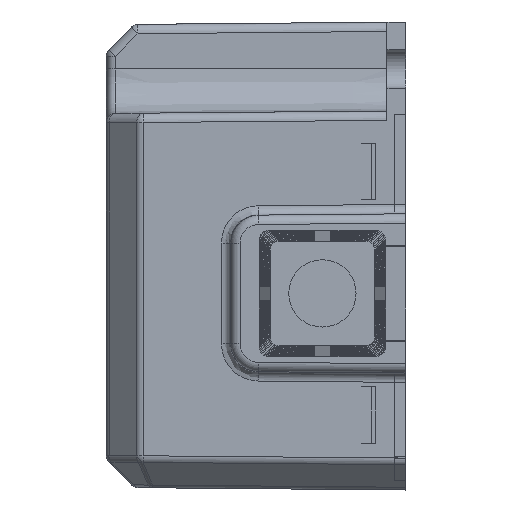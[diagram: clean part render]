
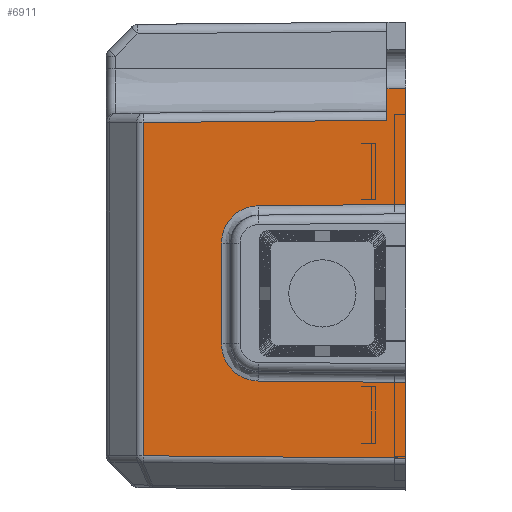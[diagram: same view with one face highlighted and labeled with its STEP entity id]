
A CAD part, left-side view. The second image highlights one B-rep face of the part: STEP entity #6911.
In plain terms, the highlighted planar face has unit normal (-1, 0.009, 0).
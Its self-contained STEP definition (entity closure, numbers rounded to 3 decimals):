
#380=CARTESIAN_POINT('',(-77.417,-2.,-21.603));
#385=DIRECTION('',(0.,0.,1.));
#386=VECTOR('',#385,8.093);
#387=CARTESIAN_POINT('',(-77.417,-2.,-21.603));
#388=LINE('',#387,#386);
#779=DIRECTION('',(-0.009,-1.,-0.009));
#780=VECTOR('',#779,15.727);
#781=CARTESIAN_POINT('',(-77.28,13.726,-13.373));
#782=LINE('',#781,#780);
#786=DIRECTION('',(0.009,1.,0.009));
#787=VECTOR('',#786,28.053);
#788=CARTESIAN_POINT('',(-77.417,-2.,-21.603));
#789=LINE('',#788,#787);
#793=DIRECTION('',(-0.009,-1.,0.009));
#794=VECTOR('',#793,26.053);
#795=CARTESIAN_POINT('',(-77.173,26.051,14.273));
#796=LINE('',#795,#794);
#800=DIRECTION('',(0.,0.,1.));
#801=VECTOR('',#800,3.4);
#802=CARTESIAN_POINT('',(-77.4,0.,14.5));
#803=LINE('',#802,#801);
#807=DIRECTION('',(0.009,1.,-0.009));
#808=VECTOR('',#807,15.727);
#809=CARTESIAN_POINT('',(-77.417,-2.,5.51));
#810=LINE('',#809,#808);
#814=CARTESIAN_POINT('',(-77.28,13.726,5.373));
#815=CARTESIAN_POINT('',(-77.277,14.082,5.37));
#816=CARTESIAN_POINT('',(-77.271,14.767,5.272));
#817=CARTESIAN_POINT('',(-77.263,15.737,4.864));
#818=CARTESIAN_POINT('',(-77.255,16.564,4.221));
#819=CARTESIAN_POINT('',(-77.25,17.199,3.389));
#820=CARTESIAN_POINT('',(-77.246,17.6,2.415));
#821=CARTESIAN_POINT('',(-77.246,17.691,1.73));
#822=CARTESIAN_POINT('',(-77.246,17.691,1.373));
#827=CARTESIAN_POINT('',(-77.246,17.691,-9.373));
#828=CARTESIAN_POINT('',(-77.246,17.691,-9.73));
#829=CARTESIAN_POINT('',(-77.246,17.6,-10.415));
#830=CARTESIAN_POINT('',(-77.25,17.199,-11.389));
#831=CARTESIAN_POINT('',(-77.255,16.564,-12.221));
#832=CARTESIAN_POINT('',(-77.263,15.738,-12.864));
#833=CARTESIAN_POINT('',(-77.271,14.767,-13.272));
#834=CARTESIAN_POINT('',(-77.277,14.082,-13.37));
#835=CARTESIAN_POINT('',(-77.28,13.726,-13.373));
#1240=DIRECTION('',(0.,0.,-1.));
#1241=VECTOR('',#1240,35.631);
#1242=CARTESIAN_POINT('',(-77.173,26.051,14.273));
#1243=LINE('',#1242,#1241);
#1630=CARTESIAN_POINT('',(-77.417,-2.,5.51));
#1635=DIRECTION('',(0.,0.,1.));
#1636=VECTOR('',#1635,12.39);
#1637=CARTESIAN_POINT('',(-77.417,-2.,5.51));
#1638=LINE('',#1637,#1636);
#5002=DIRECTION('',(0.,0.,1.));
#5003=VECTOR('',#5002,10.747);
#5004=CARTESIAN_POINT('',(-77.246,17.691,
-9.373));
#5005=LINE('',#5004,#5003);
#5009=DIRECTION('',(0.009,1.,0.));
#5010=VECTOR('',#5009,2.);
#5011=CARTESIAN_POINT('',(-77.417,-2.,17.9));
#5012=LINE('',#5011,#5010);
#5590=VERTEX_POINT('',#1630);
#5591=CARTESIAN_POINT('',(-77.417,-2.,17.9));
#5592=VERTEX_POINT('',#5591);
#5650=VERTEX_POINT('',#380);
#5651=CARTESIAN_POINT('',(-77.417,-2.,-13.51));
#5652=VERTEX_POINT('',#5651);
#6250=CARTESIAN_POINT('',(-77.28,13.726,
-13.373));
#6251=VERTEX_POINT('',#6250);
#6252=CARTESIAN_POINT('',(-77.173,26.051,
-21.359));
#6253=VERTEX_POINT('',#6252);
#6254=CARTESIAN_POINT('',(-77.173,26.051,14.273));
#6255=VERTEX_POINT('',#6254);
#6256=CARTESIAN_POINT('',(-77.4,0.,14.5));
#6257=VERTEX_POINT('',#6256);
#6258=CARTESIAN_POINT('',(-77.4,0.,17.9));
#6259=VERTEX_POINT('',#6258);
#6260=CARTESIAN_POINT('',(-77.28,13.726,5.373));
#6261=VERTEX_POINT('',#6260);
#6262=VERTEX_POINT('',#822);
#6263=CARTESIAN_POINT('',(-77.246,17.691,
-9.373));
#6264=VERTEX_POINT('',#6263);
#6882=CARTESIAN_POINT('',(-77.4,0.,-27.359));
#6883=DIRECTION('',(-1.,0.009,0.));
#6884=DIRECTION('',(0.,0.,-1.));
#6885=AXIS2_PLACEMENT_3D('',#6882,#6883,#6884);
#6886=PLANE('',#6885);
#6887=ORIENTED_EDGE('',*,*,#6875,.T.);
#6888=ORIENTED_EDGE('',*,*,#6586,.F.);
#6890=ORIENTED_EDGE('',*,*,#6889,.T.);
#6892=ORIENTED_EDGE('',*,*,#6891,.F.);
#6894=ORIENTED_EDGE('',*,*,#6893,.T.);
#6896=ORIENTED_EDGE('',*,*,#6895,.T.);
#6898=ORIENTED_EDGE('',*,*,#6897,.F.);
#6900=ORIENTED_EDGE('',*,*,#6899,.F.);
#6902=ORIENTED_EDGE('',*,*,#6901,.T.);
#6904=ORIENTED_EDGE('',*,*,#6903,.T.);
#6906=ORIENTED_EDGE('',*,*,#6905,.F.);
#6908=ORIENTED_EDGE('',*,*,#6907,.T.);
#6909=EDGE_LOOP('',(#6887,#6888,#6890,#6892,#6894,#6896,#6898,#6900,#6902,#6904,
#6906,#6908));
#6910=FACE_OUTER_BOUND('',#6909,.F.);
#6911=ADVANCED_FACE('',(#6910),#6886,.T.);
#823=B_SPLINE_CURVE_WITH_KNOTS('',3,(#814,#815,#816,#817,#818,#819,#820,#821,
#822),.UNSPECIFIED.,.F.,.F.,(4,1,1,1,1,1,4),(0.,0.167,
0.333,0.5,0.667,0.833,1.),
.UNSPECIFIED.);
#836=B_SPLINE_CURVE_WITH_KNOTS('',3,(#827,#828,#829,#830,#831,#832,#833,#834,
#835),.UNSPECIFIED.,.F.,.F.,(4,1,1,1,1,1,4),(0.,0.167,
0.333,0.5,0.667,0.833,1.),
.UNSPECIFIED.);
#6586=EDGE_CURVE('',#5650,#5652,#388,.T.);
#6875=EDGE_CURVE('',#6251,#5652,#782,.T.);
#6889=EDGE_CURVE('',#5650,#6253,#789,.T.);
#6891=EDGE_CURVE('',#6255,#6253,#1243,.T.);
#6893=EDGE_CURVE('',#6255,#6257,#796,.T.);
#6895=EDGE_CURVE('',#6257,#6259,#803,.T.);
#6897=EDGE_CURVE('',#5592,#6259,#5012,.T.);
#6899=EDGE_CURVE('',#5590,#5592,#1638,.T.);
#6901=EDGE_CURVE('',#5590,#6261,#810,.T.);
#6903=EDGE_CURVE('',#6261,#6262,#823,.T.);
#6905=EDGE_CURVE('',#6264,#6262,#5005,.T.);
#6907=EDGE_CURVE('',#6264,#6251,#836,.T.);
